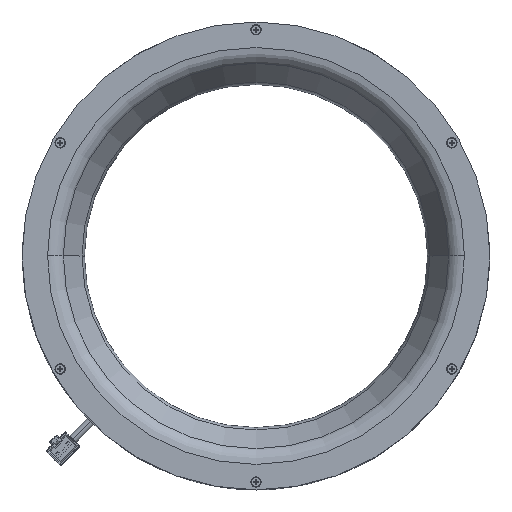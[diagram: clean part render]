
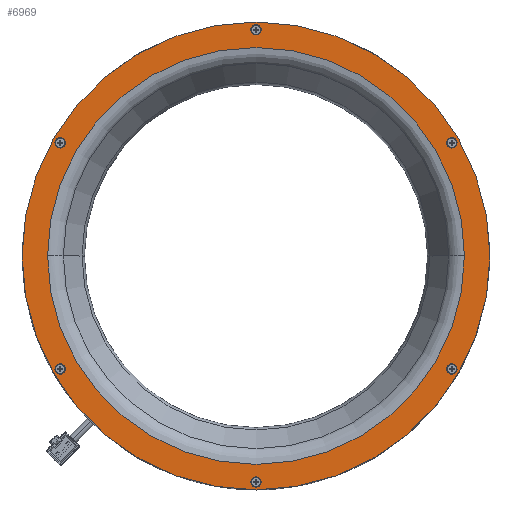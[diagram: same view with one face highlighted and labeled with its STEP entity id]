
A CAD part, top view. The second image highlights one B-rep face of the part: STEP entity #6969.
In plain terms, the highlighted planar face has unit normal (0, 0, 1).
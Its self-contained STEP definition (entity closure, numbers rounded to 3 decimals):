
#6328=CARTESIAN_POINT('',(0.,0.,29.));
#6329=DIRECTION('',(0.,0.,-1.));
#6330=DIRECTION('',(-1.,0.,0.));
#6331=AXIS2_PLACEMENT_3D('',#6328,#6329,#6330);
#6333=CARTESIAN_POINT('',(0.,0.,29.));
#6334=DIRECTION('',(0.,0.,-1.));
#6335=DIRECTION('',(1.,0.,0.));
#6336=AXIS2_PLACEMENT_3D('',#6333,#6334,#6335);
#6338=CARTESIAN_POINT('',(0.,0.,29.));
#6339=DIRECTION('',(0.,0.,1.));
#6340=DIRECTION('',(-1.,0.,0.));
#6341=AXIS2_PLACEMENT_3D('',#6338,#6339,#6340);
#6343=CARTESIAN_POINT('',(0.,0.,29.));
#6344=DIRECTION('',(0.,0.,1.));
#6345=DIRECTION('',(1.,0.,0.));
#6346=AXIS2_PLACEMENT_3D('',#6343,#6344,#6345);
#6348=CARTESIAN_POINT('',(75.344,43.5,29.));
#6349=DIRECTION('',(0.,0.,1.));
#6350=DIRECTION('',(0.,1.,0.));
#6351=AXIS2_PLACEMENT_3D('',#6348,#6349,#6350);
#6353=CARTESIAN_POINT('',(75.344,43.5,29.));
#6354=DIRECTION('',(0.,0.,1.));
#6355=DIRECTION('',(0.,-1.,0.));
#6356=AXIS2_PLACEMENT_3D('',#6353,#6354,#6355);
#6358=CARTESIAN_POINT('',(0.,87.,29.));
#6359=DIRECTION('',(0.,0.,1.));
#6360=DIRECTION('',(0.,1.,0.));
#6361=AXIS2_PLACEMENT_3D('',#6358,#6359,#6360);
#6363=CARTESIAN_POINT('',(0.,87.,29.));
#6364=DIRECTION('',(0.,0.,1.));
#6365=DIRECTION('',(0.,-1.,0.));
#6366=AXIS2_PLACEMENT_3D('',#6363,#6364,#6365);
#6368=CARTESIAN_POINT('',(0.,-87.,29.));
#6369=DIRECTION('',(0.,0.,1.));
#6370=DIRECTION('',(0.,1.,0.));
#6371=AXIS2_PLACEMENT_3D('',#6368,#6369,#6370);
#6373=CARTESIAN_POINT('',(0.,-87.,29.));
#6374=DIRECTION('',(0.,0.,1.));
#6375=DIRECTION('',(0.,-1.,0.));
#6376=AXIS2_PLACEMENT_3D('',#6373,#6374,#6375);
#6378=CARTESIAN_POINT('',(-75.344,43.5,29.));
#6379=DIRECTION('',(0.,0.,1.));
#6380=DIRECTION('',(0.,1.,0.));
#6381=AXIS2_PLACEMENT_3D('',#6378,#6379,#6380);
#6383=CARTESIAN_POINT('',(-75.344,43.5,29.));
#6384=DIRECTION('',(0.,0.,1.));
#6385=DIRECTION('',(0.,-1.,0.));
#6386=AXIS2_PLACEMENT_3D('',#6383,#6384,#6385);
#6388=CARTESIAN_POINT('',(75.344,-43.5,29.));
#6389=DIRECTION('',(0.,0.,1.));
#6390=DIRECTION('',(0.,-1.,0.));
#6391=AXIS2_PLACEMENT_3D('',#6388,#6389,#6390);
#6393=CARTESIAN_POINT('',(75.344,-43.5,29.));
#6394=DIRECTION('',(0.,0.,1.));
#6395=DIRECTION('',(0.,1.,0.));
#6396=AXIS2_PLACEMENT_3D('',#6393,#6394,#6395);
#6398=CARTESIAN_POINT('',(-75.344,-43.5,29.));
#6399=DIRECTION('',(0.,0.,1.));
#6400=DIRECTION('',(0.,1.,0.));
#6401=AXIS2_PLACEMENT_3D('',#6398,#6399,#6400);
#6403=CARTESIAN_POINT('',(-75.344,-43.5,29.));
#6404=DIRECTION('',(0.,0.,1.));
#6405=DIRECTION('',(0.,-1.,0.));
#6406=AXIS2_PLACEMENT_3D('',#6403,#6404,#6405);
#6748=CARTESIAN_POINT('',(90.,0.,29.));
#6749=VERTEX_POINT('',#6748);
#6750=CARTESIAN_POINT('',(-90.,0.,29.));
#6751=VERTEX_POINT('',#6750);
#6752=CARTESIAN_POINT('',(-80.186,0.,29.));
#6753=CARTESIAN_POINT('',(80.186,0.,29.));
#6754=VERTEX_POINT('',#6752);
#6755=VERTEX_POINT('',#6753);
#6756=CARTESIAN_POINT('',(75.344,45.5,29.));
#6757=CARTESIAN_POINT('',(75.344,41.5,29.));
#6758=VERTEX_POINT('',#6756);
#6759=VERTEX_POINT('',#6757);
#6760=CARTESIAN_POINT('',(0.,89.,29.));
#6761=CARTESIAN_POINT('',(0.,85.,29.));
#6762=VERTEX_POINT('',#6760);
#6763=VERTEX_POINT('',#6761);
#6764=CARTESIAN_POINT('',(0.,-85.,29.));
#6765=CARTESIAN_POINT('',(0.,-89.,29.));
#6766=VERTEX_POINT('',#6764);
#6767=VERTEX_POINT('',#6765);
#6768=CARTESIAN_POINT('',(-75.344,45.5,29.));
#6769=CARTESIAN_POINT('',(-75.344,41.5,29.));
#6770=VERTEX_POINT('',#6768);
#6771=VERTEX_POINT('',#6769);
#6772=CARTESIAN_POINT('',(75.344,-45.5,29.));
#6773=CARTESIAN_POINT('',(75.344,-41.5,29.));
#6774=VERTEX_POINT('',#6772);
#6775=VERTEX_POINT('',#6773);
#6776=CARTESIAN_POINT('',(-75.344,-41.5,29.));
#6777=CARTESIAN_POINT('',(-75.344,-45.5,29.));
#6778=VERTEX_POINT('',#6776);
#6779=VERTEX_POINT('',#6777);
#6918=CARTESIAN_POINT('',(0.,0.,29.));
#6919=DIRECTION('',(0.,0.,-1.));
#6920=DIRECTION('',(1.,0.,0.));
#6921=AXIS2_PLACEMENT_3D('',#6918,#6919,#6920);
#6922=PLANE('',#6921);
#6923=ORIENTED_EDGE('',*,*,#6911,.T.);
#6924=ORIENTED_EDGE('',*,*,#6900,.T.);
#6925=EDGE_LOOP('',(#6923,#6924));
#6926=FACE_OUTER_BOUND('',#6925,.F.);
#6928=ORIENTED_EDGE('',*,*,#6927,.T.);
#6930=ORIENTED_EDGE('',*,*,#6929,.T.);
#6931=EDGE_LOOP('',(#6928,#6930));
#6932=FACE_BOUND('',#6931,.F.);
#6934=ORIENTED_EDGE('',*,*,#6933,.T.);
#6936=ORIENTED_EDGE('',*,*,#6935,.T.);
#6937=EDGE_LOOP('',(#6934,#6936));
#6938=FACE_BOUND('',#6937,.F.);
#6940=ORIENTED_EDGE('',*,*,#6939,.T.);
#6942=ORIENTED_EDGE('',*,*,#6941,.T.);
#6943=EDGE_LOOP('',(#6940,#6942));
#6944=FACE_BOUND('',#6943,.F.);
#6946=ORIENTED_EDGE('',*,*,#6945,.T.);
#6948=ORIENTED_EDGE('',*,*,#6947,.T.);
#6949=EDGE_LOOP('',(#6946,#6948));
#6950=FACE_BOUND('',#6949,.F.);
#6952=ORIENTED_EDGE('',*,*,#6951,.T.);
#6954=ORIENTED_EDGE('',*,*,#6953,.T.);
#6955=EDGE_LOOP('',(#6952,#6954));
#6956=FACE_BOUND('',#6955,.F.);
#6958=ORIENTED_EDGE('',*,*,#6957,.T.);
#6960=ORIENTED_EDGE('',*,*,#6959,.T.);
#6961=EDGE_LOOP('',(#6958,#6960));
#6962=FACE_BOUND('',#6961,.F.);
#6964=ORIENTED_EDGE('',*,*,#6963,.T.);
#6966=ORIENTED_EDGE('',*,*,#6965,.T.);
#6967=EDGE_LOOP('',(#6964,#6966));
#6968=FACE_BOUND('',#6967,.F.);
#6332=CIRCLE('',#6331,90.);
#6337=CIRCLE('',#6336,90.);
#6342=CIRCLE('',#6341,80.186);
#6347=CIRCLE('',#6346,80.186);
#6352=CIRCLE('',#6351,2.);
#6357=CIRCLE('',#6356,2.);
#6362=CIRCLE('',#6361,2.);
#6367=CIRCLE('',#6366,2.);
#6372=CIRCLE('',#6371,2.);
#6377=CIRCLE('',#6376,2.);
#6382=CIRCLE('',#6381,2.);
#6387=CIRCLE('',#6386,2.);
#6392=CIRCLE('',#6391,2.);
#6397=CIRCLE('',#6396,2.);
#6402=CIRCLE('',#6401,2.);
#6407=CIRCLE('',#6406,2.);
#6900=EDGE_CURVE('',#6749,#6751,#6337,.T.);
#6911=EDGE_CURVE('',#6751,#6749,#6332,.T.);
#6927=EDGE_CURVE('',#6754,#6755,#6342,.T.);
#6929=EDGE_CURVE('',#6755,#6754,#6347,.T.);
#6933=EDGE_CURVE('',#6758,#6759,#6352,.T.);
#6935=EDGE_CURVE('',#6759,#6758,#6357,.T.);
#6939=EDGE_CURVE('',#6762,#6763,#6362,.T.);
#6941=EDGE_CURVE('',#6763,#6762,#6367,.T.);
#6945=EDGE_CURVE('',#6766,#6767,#6372,.T.);
#6947=EDGE_CURVE('',#6767,#6766,#6377,.T.);
#6951=EDGE_CURVE('',#6770,#6771,#6382,.T.);
#6953=EDGE_CURVE('',#6771,#6770,#6387,.T.);
#6957=EDGE_CURVE('',#6774,#6775,#6392,.T.);
#6959=EDGE_CURVE('',#6775,#6774,#6397,.T.);
#6963=EDGE_CURVE('',#6778,#6779,#6402,.T.);
#6965=EDGE_CURVE('',#6779,#6778,#6407,.T.);
#6969=ADVANCED_FACE('',(#6926,#6932,#6938,#6944,#6950,#6956,#6962,#6968),#6922,
.F.);
